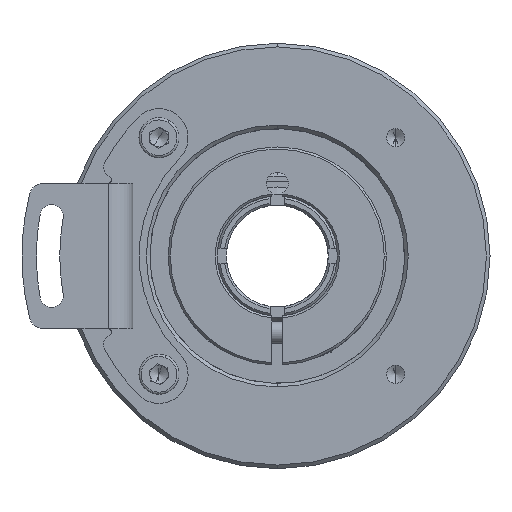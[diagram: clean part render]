
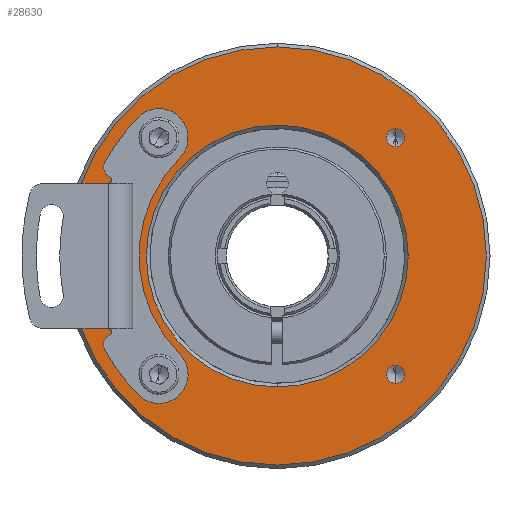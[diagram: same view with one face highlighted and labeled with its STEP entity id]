
A CAD part, front view. The second image highlights one B-rep face of the part: STEP entity #28630.
In plain terms, the highlighted planar face has unit normal (0, -1, 0).
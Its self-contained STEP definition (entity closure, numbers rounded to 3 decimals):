
#292 = CARTESIAN_POINT ( 'NONE',  ( 0., 0., 0. ) ) ;
#721 = DIRECTION ( 'NONE',  ( 0., 1., 0. ) ) ;
#943 = DIRECTION ( 'NONE',  ( 0., 0., -1. ) ) ;
#1277 = DIRECTION ( 'NONE',  ( 0., -1., 0. ) ) ;
#1293 = CARTESIAN_POINT ( 'NONE',  ( 0., 0., 18. ) ) ;
#1721 = AXIS2_PLACEMENT_3D ( 'NONE', #292, #20884, #13234 ) ;
#1942 = DIRECTION ( 'NONE',  ( 0., -1., 0. ) ) ;
#1956 = DIRECTION ( 'NONE',  ( 0., 0., -1. ) ) ;
#2021 = ORIENTED_EDGE ( 'NONE', *, *, #10595, .T. ) ;
#2202 = CIRCLE ( 'NONE', #6583, 18. ) ;
#2365 = AXIS2_PLACEMENT_3D ( 'NONE', #25781, #30833, #5651 ) ;
#2660 = EDGE_CURVE ( 'NONE', #4855, #14574, #29435, .T. ) ;
#2999 = CARTESIAN_POINT ( 'NONE',  ( 16.263, 0., -15.013 ) ) ;
#3013 = AXIS2_PLACEMENT_3D ( 'NONE', #27659, #14874, #16762 ) ;
#3217 = CIRCLE ( 'NONE', #12892, 1.25 ) ;
#3356 = FACE_BOUND ( 'NONE', #21257, .T. ) ;
#3827 = CARTESIAN_POINT ( 'NONE',  ( 16.263, 0., 16.263 ) ) ;
#3954 = ORIENTED_EDGE ( 'NONE', *, *, #12435, .F. ) ;
#4246 = DIRECTION ( 'NONE',  ( 0., 0., -1. ) ) ;
#4419 = EDGE_LOOP ( 'NONE', ( #11798, #3954 ) ) ;
#4514 = AXIS2_PLACEMENT_3D ( 'NONE', #4817, #32700, #22832 ) ;
#4536 = AXIS2_PLACEMENT_3D ( 'NONE', #8932, #24220, #26647 ) ;
#4817 = CARTESIAN_POINT ( 'NONE',  ( -16.263, 0., -16.263 ) ) ;
#4855 = VERTEX_POINT ( 'NONE', #20224 ) ;
#5198 = VERTEX_POINT ( 'NONE', #7585 ) ;
#5206 = EDGE_LOOP ( 'NONE', ( #12130, #16704 ) ) ;
#5554 = EDGE_CURVE ( 'NONE', #16979, #9486, #3217, .T. ) ;
#5651 = DIRECTION ( 'NONE',  ( 0., 0., -1. ) ) ;
#5781 = ORIENTED_EDGE ( 'NONE', *, *, #7305, .T. ) ;
#6523 = FACE_OUTER_BOUND ( 'NONE', #12703, .T. ) ;
#6583 = AXIS2_PLACEMENT_3D ( 'NONE', #17252, #19779, #1956 ) ;
#6749 = EDGE_LOOP ( 'NONE', ( #22267, #25342 ) ) ;
#6911 = DIRECTION ( 'NONE',  ( 0., 0., -1. ) ) ;
#7305 = EDGE_CURVE ( 'NONE', #12540, #10749, #2202, .T. ) ;
#7508 = VERTEX_POINT ( 'NONE', #23694 ) ;
#7558 = ORIENTED_EDGE ( 'NONE', *, *, #9245, .T. ) ;
#7581 = CARTESIAN_POINT ( 'NONE',  ( 0., 0., -18. ) ) ;
#7585 = CARTESIAN_POINT ( 'NONE',  ( 0., 0., -28.75 ) ) ;
#7962 = DIRECTION ( 'NONE',  ( 0., -1., 0. ) ) ;
#8932 = CARTESIAN_POINT ( 'NONE',  ( 0., 0., 0. ) ) ;
#9245 = EDGE_CURVE ( 'NONE', #27190, #5198, #20810, .T. ) ;
#9370 = PLANE ( 'NONE',  #4536 ) ;
#9486 = VERTEX_POINT ( 'NONE', #27674 ) ;
#10178 = CIRCLE ( 'NONE', #2365, 1.25 ) ;
#10519 = VERTEX_POINT ( 'NONE', #12484 ) ;
#10595 = EDGE_CURVE ( 'NONE', #5198, #27190, #31642, .T. ) ;
#10749 = VERTEX_POINT ( 'NONE', #1293 ) ;
#10985 = EDGE_LOOP ( 'NONE', ( #19554, #26122 ) ) ;
#11465 = DIRECTION ( 'NONE',  ( 0., -1., 0. ) ) ;
#11798 = ORIENTED_EDGE ( 'NONE', *, *, #30434, .F. ) ;
#12130 = ORIENTED_EDGE ( 'NONE', *, *, #15515, .F. ) ;
#12385 = AXIS2_PLACEMENT_3D ( 'NONE', #18100, #28206, #31047 ) ;
#12435 = EDGE_CURVE ( 'NONE', #31262, #12711, #29266, .T. ) ;
#12484 = CARTESIAN_POINT ( 'NONE',  ( 16.263, 0., 15.013 ) ) ;
#12540 = VERTEX_POINT ( 'NONE', #7581 ) ;
#12703 = EDGE_LOOP ( 'NONE', ( #7558, #2021 ) ) ;
#12711 = VERTEX_POINT ( 'NONE', #17664 ) ;
#12892 = AXIS2_PLACEMENT_3D ( 'NONE', #31919, #1277, #4246 ) ;
#13234 = DIRECTION ( 'NONE',  ( 0., 0., -1. ) ) ;
#13603 = CARTESIAN_POINT ( 'NONE',  ( -16.263, 0., -15.013 ) ) ;
#14574 = VERTEX_POINT ( 'NONE', #2999 ) ;
#14874 = DIRECTION ( 'NONE',  ( 0., -1., 0. ) ) ;
#15461 = AXIS2_PLACEMENT_3D ( 'NONE', #3827, #11465, #21548 ) ;
#15515 = EDGE_CURVE ( 'NONE', #9486, #16979, #15679, .T. ) ;
#15606 = EDGE_CURVE ( 'NONE', #10519, #7508, #20793, .T. ) ;
#15679 = CIRCLE ( 'NONE', #4514, 1.25 ) ;
#16704 = ORIENTED_EDGE ( 'NONE', *, *, #5554, .F. ) ;
#16762 = DIRECTION ( 'NONE',  ( 0., 0., -1. ) ) ;
#16979 = VERTEX_POINT ( 'NONE', #13603 ) ;
#17252 = CARTESIAN_POINT ( 'NONE',  ( 0., 0., 0. ) ) ;
#17664 = CARTESIAN_POINT ( 'NONE',  ( -16.263, 0., 15.013 ) ) ;
#17726 = DIRECTION ( 'NONE',  ( 0., 0., -1. ) ) ;
#18100 = CARTESIAN_POINT ( 'NONE',  ( 16.263, 0., 16.263 ) ) ;
#19554 = ORIENTED_EDGE ( 'NONE', *, *, #15606, .F. ) ;
#19773 = CARTESIAN_POINT ( 'NONE',  ( -16.263, 0., 16.263 ) ) ;
#19779 = DIRECTION ( 'NONE',  ( 0., 1., 0. ) ) ;
#20224 = CARTESIAN_POINT ( 'NONE',  ( 16.263, 0., -17.513 ) ) ;
#20758 = AXIS2_PLACEMENT_3D ( 'NONE', #24565, #21706, #31568 ) ;
#20793 = CIRCLE ( 'NONE', #12385, 1.25 ) ;
#20810 = CIRCLE ( 'NONE', #23271, 28.75 ) ;
#20884 = DIRECTION ( 'NONE',  ( 0., -1., 0. ) ) ;
#21257 = EDGE_LOOP ( 'NONE', ( #5781, #30535 ) ) ;
#21548 = DIRECTION ( 'NONE',  ( 0., 0., -1. ) ) ;
#21706 = DIRECTION ( 'NONE',  ( 0., -1., 0. ) ) ;
#22131 = AXIS2_PLACEMENT_3D ( 'NONE', #19773, #1942, #6911 ) ;
#22267 = ORIENTED_EDGE ( 'NONE', *, *, #2660, .F. ) ;
#22832 = DIRECTION ( 'NONE',  ( 0., 0., -1. ) ) ;
#23116 = CARTESIAN_POINT ( 'NONE',  ( 0., 0., 0. ) ) ;
#23271 = AXIS2_PLACEMENT_3D ( 'NONE', #23116, #7962, #17726 ) ;
#23694 = CARTESIAN_POINT ( 'NONE',  ( 16.263, 0., 17.513 ) ) ;
#24220 = DIRECTION ( 'NONE',  ( 0., -1., 0. ) ) ;
#24565 = CARTESIAN_POINT ( 'NONE',  ( -16.263, 0., 16.263 ) ) ;
#24759 = FACE_BOUND ( 'NONE', #6749, .T. ) ;
#25342 = ORIENTED_EDGE ( 'NONE', *, *, #27442, .F. ) ;
#25406 = CIRCLE ( 'NONE', #15461, 1.25 ) ;
#25781 = CARTESIAN_POINT ( 'NONE',  ( 16.263, 0., -16.263 ) ) ;
#26122 = ORIENTED_EDGE ( 'NONE', *, *, #26294, .F. ) ;
#26294 = EDGE_CURVE ( 'NONE', #7508, #10519, #25406, .T. ) ;
#26409 = AXIS2_PLACEMENT_3D ( 'NONE', #31189, #721, #943 ) ;
#26647 = DIRECTION ( 'NONE',  ( 0., 0., -1. ) ) ;
#27190 = VERTEX_POINT ( 'NONE', #29866 ) ;
#27442 = EDGE_CURVE ( 'NONE', #14574, #4855, #10178, .T. ) ;
#27659 = CARTESIAN_POINT ( 'NONE',  ( 16.263, 0., -16.263 ) ) ;
#27674 = CARTESIAN_POINT ( 'NONE',  ( -16.263, 0., -17.513 ) ) ;
#27862 = FACE_BOUND ( 'NONE', #10985, .T. ) ;
#28206 = DIRECTION ( 'NONE',  ( 0., -1., 0. ) ) ;
#28630 = ADVANCED_FACE ( 'NONE', ( #3356, #30637, #27862, #31779, #24759, #6523 ), #9370, .T. ) ;
#29081 = CIRCLE ( 'NONE', #20758, 1.25 ) ;
#29266 = CIRCLE ( 'NONE', #22131, 1.25 ) ;
#29435 = CIRCLE ( 'NONE', #3013, 1.25 ) ;
#29682 = CARTESIAN_POINT ( 'NONE',  ( -16.263, 0., 17.513 ) ) ;
#29866 = CARTESIAN_POINT ( 'NONE',  ( 0., 0., 28.75 ) ) ;
#30434 = EDGE_CURVE ( 'NONE', #12711, #31262, #29081, .T. ) ;
#30535 = ORIENTED_EDGE ( 'NONE', *, *, #30825, .T. ) ;
#30637 = FACE_BOUND ( 'NONE', #4419, .T. ) ;
#30825 = EDGE_CURVE ( 'NONE', #10749, #12540, #31929, .T. ) ;
#30833 = DIRECTION ( 'NONE',  ( 0., -1., 0. ) ) ;
#31047 = DIRECTION ( 'NONE',  ( 0., 0., -1. ) ) ;
#31189 = CARTESIAN_POINT ( 'NONE',  ( 0., 0., 0. ) ) ;
#31262 = VERTEX_POINT ( 'NONE', #29682 ) ;
#31568 = DIRECTION ( 'NONE',  ( 0., 0., -1. ) ) ;
#31642 = CIRCLE ( 'NONE', #1721, 28.75 ) ;
#31779 = FACE_BOUND ( 'NONE', #5206, .T. ) ;
#31919 = CARTESIAN_POINT ( 'NONE',  ( -16.263, 0., -16.263 ) ) ;
#31929 = CIRCLE ( 'NONE', #26409, 18. ) ;
#32700 = DIRECTION ( 'NONE',  ( 0., -1., 0. ) ) ;
